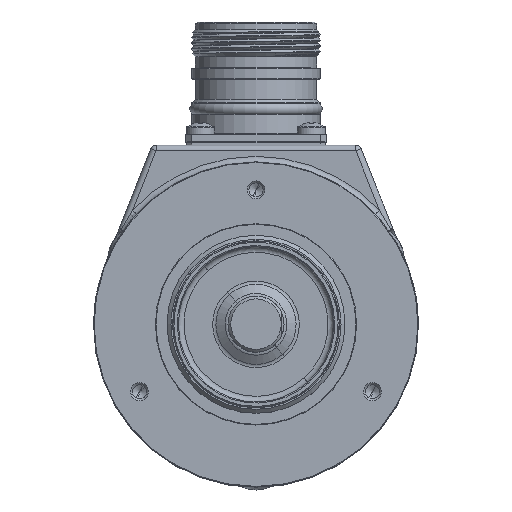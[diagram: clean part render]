
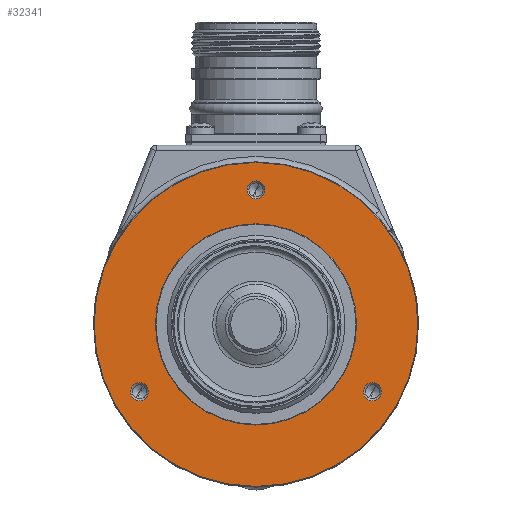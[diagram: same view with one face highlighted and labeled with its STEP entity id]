
A CAD part, top view. The second image highlights one B-rep face of the part: STEP entity #32341.
In plain terms, the highlighted planar face has unit normal (0, 0, 1).
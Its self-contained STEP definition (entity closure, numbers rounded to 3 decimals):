
#63 = AXIS2_PLACEMENT_3D ( 'NONE', #30420, #19472, #16670 ) ;
#201 = VERTEX_POINT ( 'NONE', #32930 ) ;
#671 = EDGE_CURVE ( 'NONE', #14871, #12465, #19316, .T. ) ;
#815 = EDGE_CURVE ( 'NONE', #9298, #8929, #12003, .T. ) ;
#1252 = AXIS2_PLACEMENT_3D ( 'NONE', #31594, #10253, #4386 ) ;
#2387 = EDGE_LOOP ( 'NONE', ( #34802, #13813 ) ) ;
#2806 = FACE_BOUND ( 'NONE', #13353, .T. ) ;
#3093 = VERTEX_POINT ( 'NONE', #9332 ) ;
#4386 = DIRECTION ( 'NONE',  ( -0.5, -0.866, 0. ) ) ;
#5631 = CARTESIAN_POINT ( 'NONE',  ( 0., 0., 0. ) ) ;
#5790 = EDGE_CURVE ( 'NONE', #12678, #12386, #22241, .T. ) ;
#5846 = CARTESIAN_POINT ( 'NONE',  ( 8.85, 15.329, 0. ) ) ;
#6432 = AXIS2_PLACEMENT_3D ( 'NONE', #9276, #20034, #17395 ) ;
#7565 = CARTESIAN_POINT ( 'NONE',  ( -21.585, -13.386, 0. ) ) ;
#7954 = DIRECTION ( 'NONE',  ( 0., 0., -1. ) ) ;
#8066 = CARTESIAN_POINT ( 'NONE',  ( -0.8, 22.614, 0. ) ) ;
#8794 = ORIENTED_EDGE ( 'NONE', *, *, #13722, .T. ) ;
#8929 = VERTEX_POINT ( 'NONE', #5846 ) ;
#9276 = CARTESIAN_POINT ( 'NONE',  ( -20.785, -12., 0. ) ) ;
#9291 = ORIENTED_EDGE ( 'NONE', *, *, #22113, .T. ) ;
#9298 = VERTEX_POINT ( 'NONE', #22045 ) ;
#9332 = CARTESIAN_POINT ( 'NONE',  ( 21.585, -10.614, 0. ) ) ;
#9424 = VERTEX_POINT ( 'NONE', #34213 ) ;
#9617 = CIRCLE ( 'NONE', #16949, 1.6 ) ;
#9984 = CIRCLE ( 'NONE', #18429, 1.6 ) ;
#10253 = DIRECTION ( 'NONE',  ( 0., 0., -1. ) ) ;
#10806 = DIRECTION ( 'NONE',  ( 0., 0., 1. ) ) ;
#10907 = EDGE_CURVE ( 'NONE', #12386, #12678, #20349, .T. ) ;
#11271 = CARTESIAN_POINT ( 'NONE',  ( 0., 0., 0. ) ) ;
#11340 = AXIS2_PLACEMENT_3D ( 'NONE', #11271, #22193, #32974 ) ;
#11371 = VERTEX_POINT ( 'NONE', #29920 ) ;
#12003 = CIRCLE ( 'NONE', #1252, 17.7 ) ;
#12386 = VERTEX_POINT ( 'NONE', #25705 ) ;
#12465 = VERTEX_POINT ( 'NONE', #17932 ) ;
#12678 = VERTEX_POINT ( 'NONE', #7565 ) ;
#13353 = EDGE_LOOP ( 'NONE', ( #25659, #30595 ) ) ;
#13722 = EDGE_CURVE ( 'NONE', #201, #9424, #34911, .T. ) ;
#13813 = ORIENTED_EDGE ( 'NONE', *, *, #21704, .T. ) ;
#14111 = DIRECTION ( 'NONE',  ( 0.5, 0.866, 0. ) ) ;
#14124 = FACE_BOUND ( 'NONE', #15536, .T. ) ;
#14871 = VERTEX_POINT ( 'NONE', #8066 ) ;
#15352 = AXIS2_PLACEMENT_3D ( 'NONE', #24735, #10806, #32152 ) ;
#15439 = DIRECTION ( 'NONE',  ( 0.5, 0.866, 0. ) ) ;
#15536 = EDGE_LOOP ( 'NONE', ( #34046, #21304 ) ) ;
#16590 = CIRCLE ( 'NONE', #18260, 17.7 ) ;
#16670 = DIRECTION ( 'NONE',  ( 0.5, 0.866, 0. ) ) ;
#16679 = DIRECTION ( 'NONE',  ( 0., 0., 1. ) ) ;
#16774 = FACE_OUTER_BOUND ( 'NONE', #30075, .T. ) ;
#16949 = AXIS2_PLACEMENT_3D ( 'NONE', #18632, #29763, #24266 ) ;
#17395 = DIRECTION ( 'NONE',  ( 0.5, 0.866, 0. ) ) ;
#17932 = CARTESIAN_POINT ( 'NONE',  ( 0.8, 25.386, 0. ) ) ;
#18260 = AXIS2_PLACEMENT_3D ( 'NONE', #5631, #7954, #27238 ) ;
#18429 = AXIS2_PLACEMENT_3D ( 'NONE', #25587, #24861, #14111 ) ;
#18632 = CARTESIAN_POINT ( 'NONE',  ( 0., 24., 0. ) ) ;
#18645 = EDGE_LOOP ( 'NONE', ( #27849, #30742 ) ) ;
#19316 = CIRCLE ( 'NONE', #15352, 1.6 ) ;
#19341 = EDGE_CURVE ( 'NONE', #3093, #11371, #19954, .T. ) ;
#19472 = DIRECTION ( 'NONE',  ( 0., 0., 1. ) ) ;
#19954 = CIRCLE ( 'NONE', #23884, 1.6 ) ;
#20034 = DIRECTION ( 'NONE',  ( 0., 0., 1. ) ) ;
#20349 = CIRCLE ( 'NONE', #63, 1.6 ) ;
#21232 = DIRECTION ( 'NONE',  ( 0., 0., 1. ) ) ;
#21304 = ORIENTED_EDGE ( 'NONE', *, *, #5790, .F. ) ;
#21704 = EDGE_CURVE ( 'NONE', #8929, #9298, #16590, .T. ) ;
#21864 = DIRECTION ( 'NONE',  ( 0., 0., -1. ) ) ;
#22045 = CARTESIAN_POINT ( 'NONE',  ( -8.85, -15.329, 0. ) ) ;
#22113 = EDGE_CURVE ( 'NONE', #9424, #201, #33313, .T. ) ;
#22193 = DIRECTION ( 'NONE',  ( 0., 0., 1. ) ) ;
#22241 = CIRCLE ( 'NONE', #6432, 1.6 ) ;
#22387 = FACE_BOUND ( 'NONE', #18645, .T. ) ;
#23083 = EDGE_CURVE ( 'NONE', #11371, #3093, #9984, .T. ) ;
#23884 = AXIS2_PLACEMENT_3D ( 'NONE', #29379, #21232, #15439 ) ;
#24142 = EDGE_CURVE ( 'NONE', #12465, #14871, #9617, .T. ) ;
#24266 = DIRECTION ( 'NONE',  ( 0.5, 0.866, 0. ) ) ;
#24543 = DIRECTION ( 'NONE',  ( -0.5, -0.866, 0. ) ) ;
#24706 = PLANE ( 'NONE',  #31525 ) ;
#24735 = CARTESIAN_POINT ( 'NONE',  ( 0., 24., 0. ) ) ;
#24861 = DIRECTION ( 'NONE',  ( 0., 0., 1. ) ) ;
#25132 = DIRECTION ( 'NONE',  ( -0.5, -0.866, 0. ) ) ;
#25587 = CARTESIAN_POINT ( 'NONE',  ( 20.785, -12., 0. ) ) ;
#25659 = ORIENTED_EDGE ( 'NONE', *, *, #24142, .F. ) ;
#25705 = CARTESIAN_POINT ( 'NONE',  ( -19.985, -10.614, 0. ) ) ;
#25901 = AXIS2_PLACEMENT_3D ( 'NONE', #30431, #16679, #25132 ) ;
#27238 = DIRECTION ( 'NONE',  ( -0.5, -0.866, 0. ) ) ;
#27849 = ORIENTED_EDGE ( 'NONE', *, *, #19341, .F. ) ;
#29379 = CARTESIAN_POINT ( 'NONE',  ( 20.785, -12., 0. ) ) ;
#29763 = DIRECTION ( 'NONE',  ( 0., 0., 1. ) ) ;
#29920 = CARTESIAN_POINT ( 'NONE',  ( 19.985, -13.386, 0. ) ) ;
#30075 = EDGE_LOOP ( 'NONE', ( #9291, #8794 ) ) ;
#30364 = CARTESIAN_POINT ( 'NONE',  ( -25.115, 14.5, 0. ) ) ;
#30420 = CARTESIAN_POINT ( 'NONE',  ( -20.785, -12., 0. ) ) ;
#30431 = CARTESIAN_POINT ( 'NONE',  ( 0., 0., 0. ) ) ;
#30595 = ORIENTED_EDGE ( 'NONE', *, *, #671, .F. ) ;
#30742 = ORIENTED_EDGE ( 'NONE', *, *, #23083, .F. ) ;
#31525 = AXIS2_PLACEMENT_3D ( 'NONE', #30364, #21864, #24543 ) ;
#31594 = CARTESIAN_POINT ( 'NONE',  ( 0., 0., 0. ) ) ;
#32152 = DIRECTION ( 'NONE',  ( 0.5, 0.866, 0. ) ) ;
#32341 = ADVANCED_FACE ( 'NONE', ( #2806, #22387, #14124, #16774, #32998 ), #24706, .F. ) ;
#32930 = CARTESIAN_POINT ( 'NONE',  ( 14.45, 25.028, 0. ) ) ;
#32974 = DIRECTION ( 'NONE',  ( -0.5, -0.866, 0. ) ) ;
#32998 = FACE_BOUND ( 'NONE', #2387, .T. ) ;
#33313 = CIRCLE ( 'NONE', #11340, 28.9 ) ;
#34046 = ORIENTED_EDGE ( 'NONE', *, *, #10907, .F. ) ;
#34213 = CARTESIAN_POINT ( 'NONE',  ( -14.45, -25.028, 0. ) ) ;
#34802 = ORIENTED_EDGE ( 'NONE', *, *, #815, .T. ) ;
#34911 = CIRCLE ( 'NONE', #25901, 28.9 ) ;
